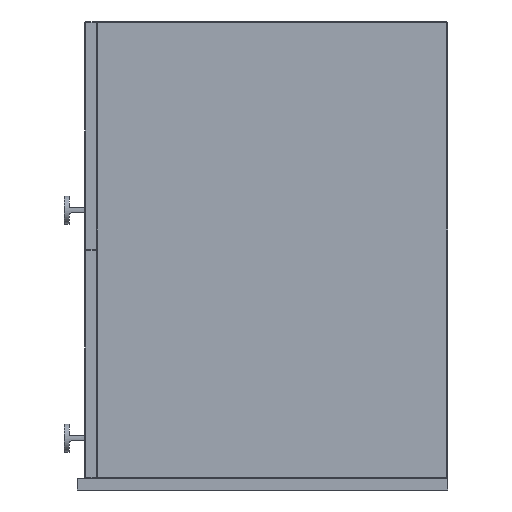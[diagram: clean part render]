
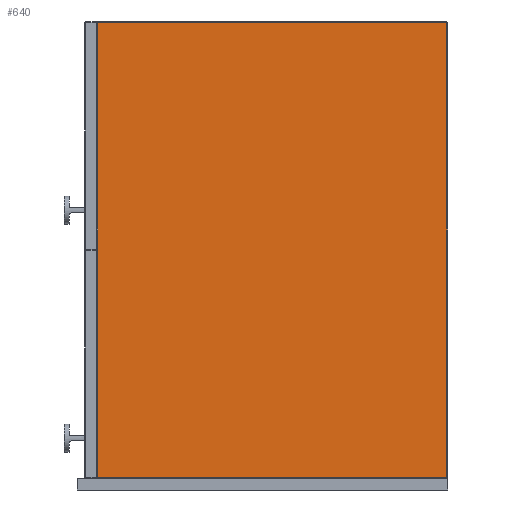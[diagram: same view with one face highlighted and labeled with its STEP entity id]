
A CAD part, left-side view. The second image highlights one B-rep face of the part: STEP entity #640.
In plain terms, the highlighted planar face has unit normal (-1, 0, 0).
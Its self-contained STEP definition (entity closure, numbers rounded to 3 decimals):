
#28 = VERTEX_POINT ( 'NONE', #1378 ) ;
#66 = ORIENTED_EDGE ( 'NONE', *, *, #1835, .T. ) ;
#114 = PLANE ( 'NONE',  #2232 ) ;
#142 = CARTESIAN_POINT ( 'NONE',  ( -400., 1., 286. ) ) ;
#296 = DIRECTION ( 'NONE',  ( 0., 0., -1. ) ) ;
#352 = ORIENTED_EDGE ( 'NONE', *, *, #1951, .T. ) ;
#386 = ORIENTED_EDGE ( 'NONE', *, *, #450, .T. ) ;
#450 = EDGE_CURVE ( 'NONE', #28, #1738, #1785, .T. ) ;
#461 = EDGE_LOOP ( 'NONE', ( #66, #2025, #352, #386 ) ) ;
#483 = DIRECTION ( 'NONE',  ( 0., -1., 0. ) ) ;
#498 = DIRECTION ( 'NONE',  ( 1., 0., 0. ) ) ;
#544 = CARTESIAN_POINT ( 'NONE',  ( -400., 1., -285. ) ) ;
#640 = ADVANCED_FACE ( 'NONE', ( #2285 ), #114, .F. ) ;
#662 = CARTESIAN_POINT ( 'NONE',  ( -400., 440., 286. ) ) ;
#669 = DIRECTION ( 'NONE',  ( 0., 1., 0. ) ) ;
#692 = DIRECTION ( 'NONE',  ( 0., 0., 1. ) ) ;
#1049 = DIRECTION ( 'NONE',  ( 0., 0., -1. ) ) ;
#1095 = VERTEX_POINT ( 'NONE', #1281 ) ;
#1104 = CARTESIAN_POINT ( 'NONE',  ( -400., 440., 285. ) ) ;
#1152 = VECTOR ( 'NONE', #669, 1000. ) ;
#1281 = CARTESIAN_POINT ( 'NONE',  ( -400., 439., -285. ) ) ;
#1378 = CARTESIAN_POINT ( 'NONE',  ( -400., 1., 285. ) ) ;
#1406 = CARTESIAN_POINT ( 'NONE',  ( -400., 439., 286. ) ) ;
#1562 = VECTOR ( 'NONE', #692, 1000. ) ;
#1722 = LINE ( 'NONE', #2129, #1983 ) ;
#1738 = VERTEX_POINT ( 'NONE', #2258 ) ;
#1785 = LINE ( 'NONE', #1104, #1152 ) ;
#1835 = EDGE_CURVE ( 'NONE', #1738, #1095, #2106, .T. ) ;
#1894 = EDGE_CURVE ( 'NONE', #1095, #2273, #1722, .T. ) ;
#1906 = VECTOR ( 'NONE', #296, 1000. ) ;
#1951 = EDGE_CURVE ( 'NONE', #2273, #28, #2013, .T. ) ;
#1983 = VECTOR ( 'NONE', #483, 1000. ) ;
#2013 = LINE ( 'NONE', #142, #1562 ) ;
#2025 = ORIENTED_EDGE ( 'NONE', *, *, #1894, .T. ) ;
#2106 = LINE ( 'NONE', #1406, #1906 ) ;
#2129 = CARTESIAN_POINT ( 'NONE',  ( -400., 440., -285. ) ) ;
#2232 = AXIS2_PLACEMENT_3D ( 'NONE', #662, #498, #1049 ) ;
#2258 = CARTESIAN_POINT ( 'NONE',  ( -400., 439., 285. ) ) ;
#2273 = VERTEX_POINT ( 'NONE', #544 ) ;
#2285 = FACE_OUTER_BOUND ( 'NONE', #461, .T. ) ;
